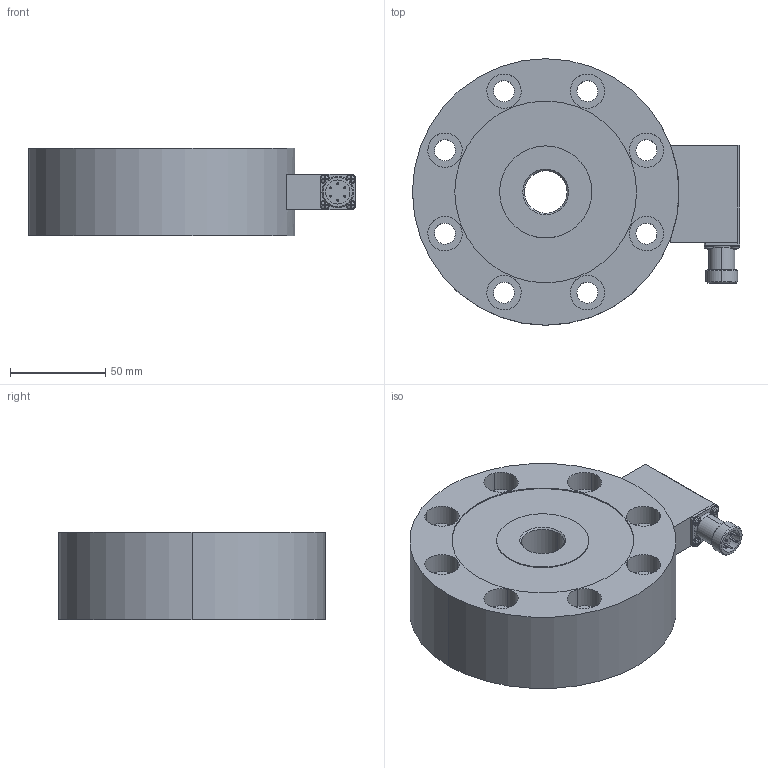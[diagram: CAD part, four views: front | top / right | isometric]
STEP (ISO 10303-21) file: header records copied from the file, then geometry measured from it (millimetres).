
FILE_DESCRIPTION(('STEP AP203'),'1');
FILE_NAME('C:/TPO v2/SharedFS/Outgoing/burster_85041-50_6n864kzfj2ye6i1v2bgr8p8d.stp','2013-08-27T13:45:48',('TraceParts'),('TraceParts S.A.'),'XStep 1.0',' ',' ');
FILE_SCHEMA(('CONFIG_CONTROL_DESIGN'));
Length unit declared in the file: millimetre
Products named in the file (1): 1
Bounding box: 171.45 x 139.7 x 45.7 mm (x, y, z)
Volume: 649168.4 mm3; surface area: 73734.9 mm2
Topology: 1 solids, 1 shells, 193 faces, 464 edges, 294 vertices
Faces by surface type: plane 94, cylinder 65, torus 18, cone 16
Entity records: 6124 total; most frequent: CARTESIAN_POINT 1476, DIRECTION 1002, ORIENTED_EDGE 928, EDGE_CURVE 464, AXIS2_PLACEMENT_3D 404, VERTEX_POINT 294, EDGE_LOOP 232, CIRCLE 210
